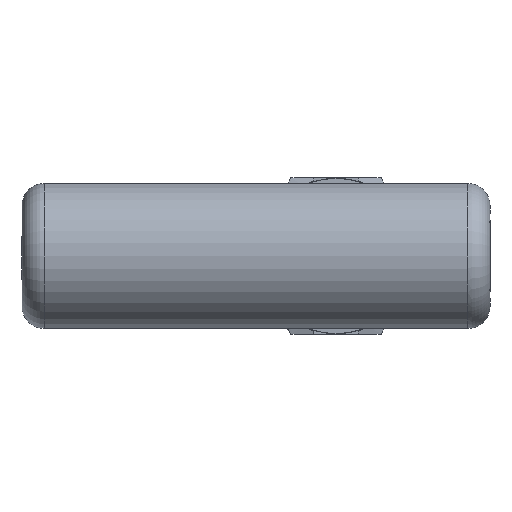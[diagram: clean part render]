
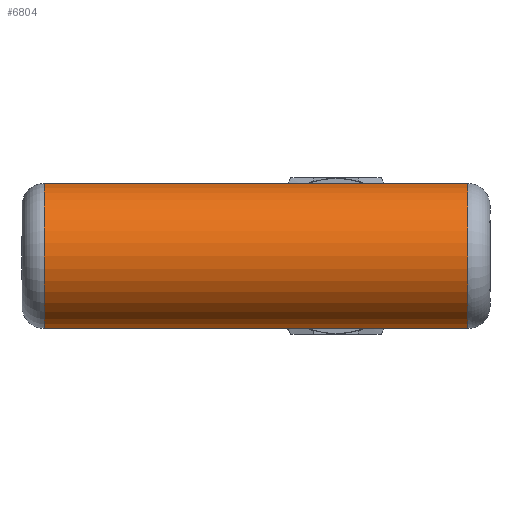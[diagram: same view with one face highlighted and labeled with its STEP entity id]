
A CAD part, left-side view. The second image highlights one B-rep face of the part: STEP entity #6804.
In plain terms, the highlighted cylindrical face has radius 10.325 mm (diameter 20.65 mm), a partial arc.
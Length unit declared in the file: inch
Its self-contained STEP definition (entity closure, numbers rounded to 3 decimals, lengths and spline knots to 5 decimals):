
#6014=CARTESIAN_POINT('',(-1.79556,-0.737,-0.4065));
#6015=VERTEX_POINT('',#6014);
#6064=CARTESIAN_POINT('',(-1.79556,-0.737,0.4065));
#6065=VERTEX_POINT('',#6064);
#6075=CARTESIAN_POINT('',(-1.79556,-0.737,0.));
#6076=DIRECTION('',(0.0,-1.0,0.0));
#6077=DIRECTION('',(0.0,0.0,-1.0));
#6078=AXIS2_PLACEMENT_3D('',#6075,#6076,#6077);
#6079=CIRCLE('',#6078,0.4065);
#6080=EDGE_CURVE('',#6065,#6015,#6079,.T.);
#6206=CARTESIAN_POINT('',(-1.79556,1.633,0.4065));
#6207=VERTEX_POINT('',#6206);
#6224=CARTESIAN_POINT('',(-1.79556,1.633,-0.4065));
#6225=VERTEX_POINT('',#6224);
#6233=CARTESIAN_POINT('',(-1.79556,1.633,0.));
#6234=DIRECTION('',(0.0,1.0,0.0));
#6235=DIRECTION('',(0.0,0.0,-1.0));
#6236=AXIS2_PLACEMENT_3D('',#6233,#6234,#6235);
#6237=CIRCLE('',#6236,0.4065);
#6238=EDGE_CURVE('',#6225,#6207,#6237,.T.);
#6248=CARTESIAN_POINT('',(-1.79556,-0.737,0.4065));
#6249=DIRECTION('',(0.0,1.0,0.0));
#6250=VECTOR('',#6249,2.37);
#6251=LINE('',#6248,#6250);
#6252=EDGE_CURVE('',#6065,#6207,#6251,.T.);
#6308=CARTESIAN_POINT('',(-1.79556,1.633,-0.4065));
#6309=DIRECTION('',(0.0,-1.0,0.0));
#6310=VECTOR('',#6309,2.37);
#6311=LINE('',#6308,#6310);
#6312=EDGE_CURVE('',#6225,#6015,#6311,.T.);
#6793=CARTESIAN_POINT('',(-1.79556,-0.862,0.));
#6794=DIRECTION('',(0.,1.0,0.));
#6795=DIRECTION('',(0.0,0.0,1.0));
#6796=AXIS2_PLACEMENT_3D('',#6793,#6794,#6795);
#6797=CYLINDRICAL_SURFACE('',#6796,0.4065);
#6798=ORIENTED_EDGE('',*,*,#6252,.T.);
#6799=ORIENTED_EDGE('',*,*,#6238,.F.);
#6800=ORIENTED_EDGE('',*,*,#6312,.T.);
#6801=ORIENTED_EDGE('',*,*,#6080,.F.);
#6802=EDGE_LOOP('',(#6798,#6799,#6800,#6801));
#6803=FACE_OUTER_BOUND('',#6802,.T.);
#6804=ADVANCED_FACE('',(#6803),#6797,.T.);
